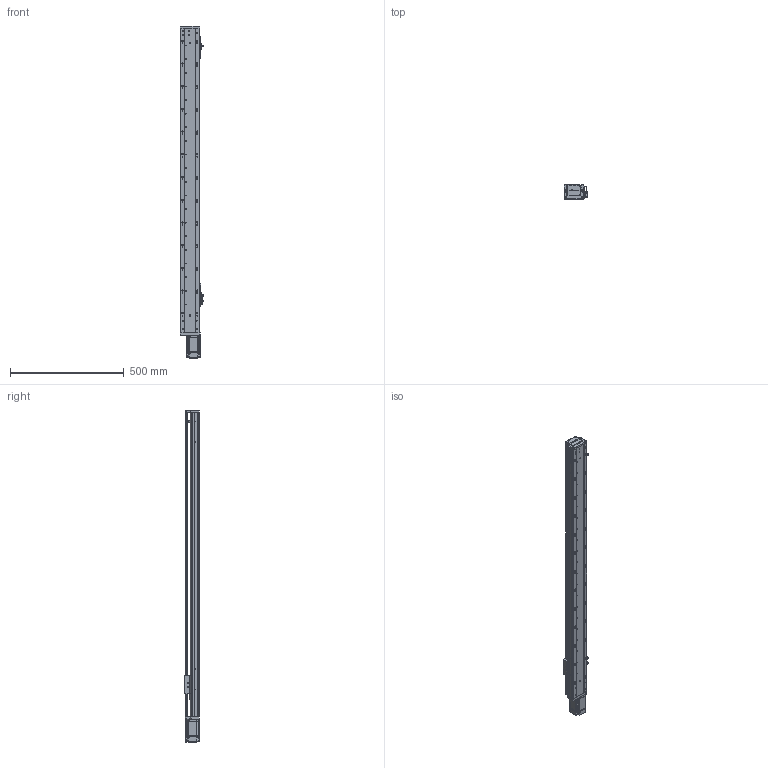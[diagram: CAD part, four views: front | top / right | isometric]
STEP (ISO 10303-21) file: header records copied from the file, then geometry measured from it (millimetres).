
FILE_DESCRIPTION (( 'STEP AP203' ), '1' );
FILE_NAME ('RY80-L1620-800-MK.SLDASM_1100.step', '2021-02-20T03:10:33', ( '' ), ( '' ), 'SwSTEP 2.0', 'SolidWorks 2012', '' );
FILE_SCHEMA (( 'CONFIG_CONTROL_DESIGN' ));
Length unit declared in the file: millimetre
Products named in the file (13): RY80-L1620-800-MK.SLDASM_1100; RY80俋离覜茼え; 覜茼ん672; 滅袉蝶18-24; RY80綴裔啣; 672嫖萇羲壽假蚾釱; 侂狟200W萇儂; 1; 滅袉蝶18-10; RY80-800-MK倰第菁釱_1100; RY80-800-MK倰第奻裔啣_1100; RY80前盖板(200W电机); RY80臏賑輸
Assembly tree (15 placements, depth 3):
  RY80-L1620-800-MK.SLDASM_1100
    RY80-800-MK倰第菁釱_1100
    RY80臏賑輸
    RY80-800-MK倰第奻裔啣_1100
    RY80前盖板(200W电机)
    侂狟200W萇儂
      1
    滅袉蝶18-10
    672嫖萇羲壽假蚾釱  x2
    覜茼ん672  x3
    RY80俋离覜茼え
    滅袉蝶18-24
    RY80綴裔啣
Bounding box: 103.7 x 65 x 1462 mm (x, y, z)
Volume: 2260058 mm3; surface area: 903702 mm2
Topology: 14 solids, 14 shells, 2221 faces, 6220 edges, 4061 vertices
Faces by surface type: plane 1148, cylinder 906, cone 115, bspline 52
Entity records: 72903 total; most frequent: CARTESIAN_POINT 20002, ORIENTED_EDGE 11188, DIRECTION 10084, EDGE_CURVE 5594, VERTEX_POINT 3677, AXIS2_PLACEMENT_3D 3435, LINE 3214, VECTOR 3214
